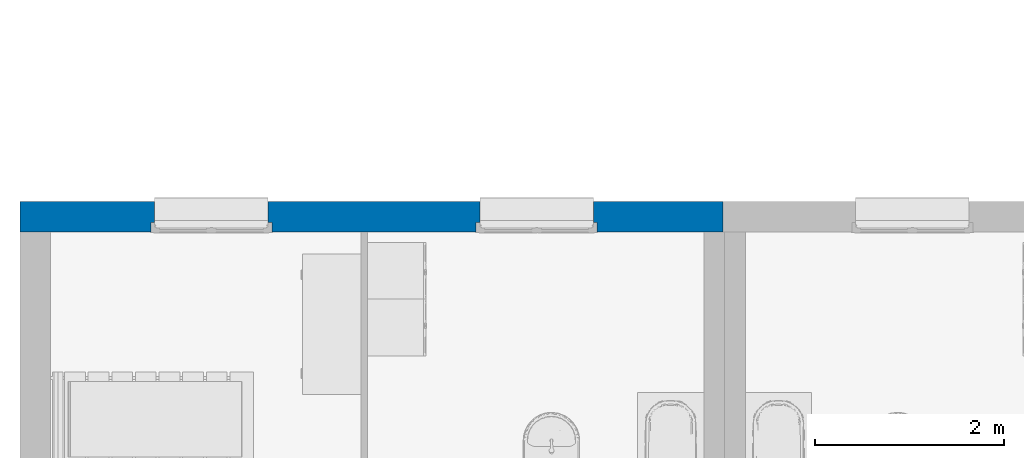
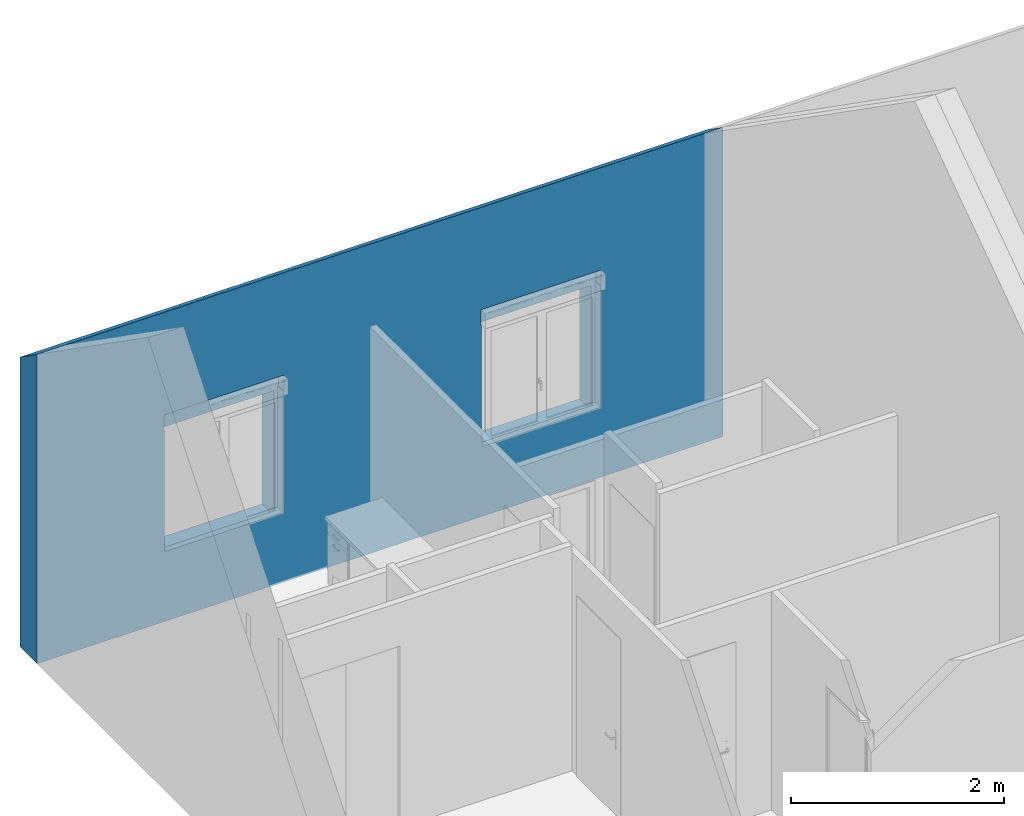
# One storey, part 19 of 50: 1 wall, 2 openings.
"""IFC2X3 building model written with IfcOpenShell, lengths in metres."""

from ifc_helpers import new_model, entity, si_unit, converted_unit, derived_unit, direction, frame, frame_2d, origin, place, context, subcontext, project, spatial, polyline, rectangle, extrude, clip, bounded_halfspace, faceted_brep, material, layer, layer_set, layer_usage, type_object, element, save


model = new_model("IFC2X3")

# Units and contexts
model_context = context("Model", 3, precision=1e-05, world=origin(), true_north=direction((6.12303176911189e-17, 1.0)))
context_of_model = context(None, 3, precision=1e-05, world=origin(), true_north=direction((6.12303176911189e-17, 1.0)))
body_context = subcontext(model_context, "Body", "Model", "MODEL_VIEW")
ifc_project = project(units=[si_unit("LENGTHUNIT", "METRE"), si_unit("AREAUNIT", "SQUARE_METRE"), si_unit("VOLUMEUNIT", "CUBIC_METRE"), converted_unit("PLANEANGLEUNIT", "DEGREE", entity("IfcRatioMeasure", 0.0174532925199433), si_unit("PLANEANGLEUNIT", "RADIAN"), dimensions=[0, 0, 0, 0, 0, 0, 0]), si_unit("MASSUNIT", "GRAM", prefix="KILO"), si_unit("TIMEUNIT", "SECOND"), si_unit("FREQUENCYUNIT", "HERTZ"), si_unit("THERMODYNAMICTEMPERATUREUNIT", "DEGREE_CELSIUS"), derived_unit("THERMALTRANSMITTANCEUNIT", [(si_unit("MASSUNIT", "GRAM", prefix="KILO"), 1), (si_unit("THERMODYNAMICTEMPERATUREUNIT", "KELVIN"), -1), (si_unit("TIMEUNIT", "SECOND"), -3)]), derived_unit("VOLUMETRICFLOWRATEUNIT", [(si_unit("LENGTHUNIT", "METRE"), 3), (si_unit("TIMEUNIT", "SECOND"), -1)]), si_unit("ELECTRICCURRENTUNIT", "AMPERE"), si_unit("ELECTRICVOLTAGEUNIT", "VOLT"), si_unit("POWERUNIT", "WATT"), si_unit("FORCEUNIT", "NEWTON", prefix="KILO"), si_unit("ILLUMINANCEUNIT", "LUX"), si_unit("LUMINOUSFLUXUNIT", "LUMEN"), si_unit("LUMINOUSINTENSITYUNIT", "CANDELA"), si_unit("PRESSUREUNIT", "PASCAL")], contexts=[model_context, context_of_model])

# Site, building, storey
site_placement = place(None, origin())
site = spatial("IfcSite", under=ifc_project, at=site_placement, Name="Surface", CompositionType="ELEMENT")
building_placement = place(site_placement, origin())
building = spatial("IfcBuilding", under=site, at=building_placement, CompositionType="ELEMENT")
storey_placement = place(building_placement, frame((0.0, 0.0, 2.82)))
storey = spatial("IfcBuildingStorey", under=building, at=storey_placement, Name="ETAGE", CompositionType="ELEMENT", Elevation=2.82)

# Wall, openings
ifc_material_1 = material(Name="Enduit blanc cassé2")
ifc_layer_1 = layer(ifc_material_1, 0.02)
ifc_material_2 = material(Name="Parpaing")
ifc_layer_2 = layer(ifc_material_2, 0.2)
ifc_material_3 = material(Name="Isolant")
ifc_layer_3 = layer(ifc_material_3, 0.1)
ifc_layer_set = layer_set([ifc_layer_1, ifc_layer_2, ifc_layer_3], Name="Mur de base:Ext. Parpaing 20 + Isolant 10 enduit blanc cassé")
ifc_layer_usage = layer_usage(ifc_layer_set, "AXIS2", "POSITIVE", -0.16)
wall_type = type_object("IfcWallType", Name="Mur de base:Ext. Parpaing 20 + Isolant 10 enduit blanc cassé", PredefinedType="STANDARD", material=ifc_layer_set)
wall_placement = place(storey_placement, frame((68.8167429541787, 88.2677566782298, 0.0), z_axis=(0.0, 0.0, 1.0), x_axis=(-1.0, 0.0, 0.0)))
wall = element("IfcWallStandardCase", 1, at=wall_placement, inside=storey, type_object=wall_type, material=ifc_layer_usage, Name="Mur de base:Ext. Parpaing 20 + Isolant 10 enduit blanc cassé", ObjectType="Mur de base:Ext. Parpaing 20 + Isolant 10 enduit blanc cassé", context=body_context, shape_type="Clipping", body=[
    clip(extrude(rectangle(XDim=7.43037953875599, YDim=0.319999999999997, at=frame_2d((3.715189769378, -9.85322934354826e-16), x_axis=(-1.0, 0.0))), origin(), (0.0, 0.0, 1.0), 3.5440664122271), bounded_halfspace(frame((0.0, -0.159999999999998, 3.32), z_axis=(0.0, -0.573576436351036, 0.819152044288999), x_axis=(1.0, 0.0, 0.0)), False, frame((0.0, -0.159999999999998, 3.32)), polyline([(0.0, 0.0), (7.43037953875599, 0.0), (7.43037953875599, 0.319999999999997), (7.110379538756, 0.319999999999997), (0.201733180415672, 0.319999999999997), (0.0, 0.319999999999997), (0.0, 0.0)]))),
])
opening_1_placement = place(wall_placement, frame((2.6181748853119, 0.500000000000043, 0.719999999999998), z_axis=(0.0, 0.0, 1.0), x_axis=(-1.0, 0.0, 0.0)))
element("IfcOpeningElement", 2, at=opening_1_placement, cuts=wall, Name="Mur de base:Ext. Parpaing 20 + Isolant 10 enduit blanc cassé", ObjectType="Opening", context=body_context, shape_type="Brep", body=[
    faceted_brep([(0.0500000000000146, 0.0, 1.43), (0.0500000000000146, 0.0, 0.0800000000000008), (1.25000000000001, 0.0, 0.0800000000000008), (1.25000000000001, 0.0, 1.43), (0.0499999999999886, 1.0, 1.43), (1.24999999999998, 1.0, 1.43), (1.24999999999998, 1.0, 0.0800000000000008), (0.0499999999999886, 1.0, 0.0800000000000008), (1.25000000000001, 0.327000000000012, 1.43), (0.050000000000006, 0.32700000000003, 1.43), (1.25000000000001, 0.327000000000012, 0.0800000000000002), (0.050000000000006, 0.32700000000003, 0.0800000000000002), (0.0100000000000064, 0.327000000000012, 0.0800000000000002), (0.0100000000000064, 0.440000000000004, 0.0800000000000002), (0.050000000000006, 0.440000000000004, 0.0800000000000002), (0.050000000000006, 0.405000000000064, 0.0800000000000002), (1.25, 0.405000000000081, 0.0800000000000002), (1.25, 0.440000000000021, 0.0800000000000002), (1.29, 0.440000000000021, 0.0800000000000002), (1.29, 0.327000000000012, 0.0800000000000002), (1.29, 0.32700000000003, 1.47), (0.0100000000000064, 0.327000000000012, 1.47), (1.29, 0.440000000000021, 1.47), (1.25, 0.440000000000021, 1.43), (0.0499999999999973, 0.440000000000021, 1.43), (0.0100000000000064, 0.440000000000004, 1.47), (0.0, 0.440000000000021, 1.47), (0.0, 0.440000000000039, 1.65), (1.3, 0.440000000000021, 1.65), (1.3, 0.440000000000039, 1.47), (1.3, 0.307000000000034, 1.65), (1.3, 0.307000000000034, 1.47), (0.0, 0.307000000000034, 1.65), (0.0, 0.307000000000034, 1.47), (1.25, 0.440000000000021, 0.0), (1.25, 0.405000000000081, 0.0349999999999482), (0.050000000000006, 0.405000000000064, 0.0349999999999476), (0.0499999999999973, 0.440000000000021, 0.0), (1.25, 0.705000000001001, 0.0800000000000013), (1.25, 0.705000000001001, 0.0), (0.050000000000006, 0.705000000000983, 0.0), (0.0499999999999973, 0.705000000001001, 0.0800000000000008)], [[[0, 1, 2, 3]], [[4, 5, 6, 7]], [[0, 3, 8, 9]], [[3, 2, 10, 8]], [[2, 1, 11, 12, 13, 14, 15, 16, 17, 18, 19, 10]], [[1, 0, 9, 11]], [[10, 19, 20, 21, 12, 11, 9, 8]], [[19, 18, 22, 20]], [[18, 17, 23, 24, 14, 13, 25, 26, 27, 28, 29, 22]], [[12, 21, 25, 13]], [[30, 31, 29, 28]], [[32, 27, 26, 33]], [[30, 28, 27, 32]], [[29, 31, 33, 26, 25, 21, 20, 22]], [[31, 30, 32, 33]], [[34, 35, 36, 37]], [[35, 16, 15, 36]], [[38, 39, 40, 41]], [[39, 34, 37, 40]], [[4, 7, 41, 40, 37, 36, 15, 14, 24]], [[7, 6, 38, 41]], [[6, 5, 23, 17, 16, 35, 34, 39, 38]], [[5, 4, 24, 23]]]),
])
opening_2_placement = place(wall_placement, frame((6.05730635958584, 0.500000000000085, 0.719999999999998), z_axis=(0.0, 0.0, 1.0), x_axis=(-1.0, 0.0, 0.0)))
element("IfcOpeningElement", 3, at=opening_2_placement, cuts=wall, Name="Mur de base:Ext. Parpaing 20 + Isolant 10 enduit blanc cassé", ObjectType="Opening", context=body_context, shape_type="Brep", body=[
    faceted_brep([(0.0500000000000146, 0.0, 1.43), (0.0500000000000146, 0.0, 0.0800000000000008), (1.25000000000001, 0.0, 0.0800000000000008), (1.25000000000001, 0.0, 1.43), (0.0499999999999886, 1.0, 1.43), (1.24999999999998, 1.0, 1.43), (1.24999999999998, 1.0, 0.0800000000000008), (0.0499999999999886, 1.0, 0.0800000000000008), (1.25000000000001, 0.327000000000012, 1.43), (0.050000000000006, 0.32700000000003, 1.43), (1.25000000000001, 0.327000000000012, 0.0800000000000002), (0.050000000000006, 0.32700000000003, 0.0800000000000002), (0.0100000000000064, 0.327000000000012, 0.0800000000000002), (0.0100000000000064, 0.440000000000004, 0.0800000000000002), (0.050000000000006, 0.440000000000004, 0.0800000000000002), (0.050000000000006, 0.405000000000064, 0.0800000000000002), (1.25, 0.405000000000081, 0.0800000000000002), (1.25, 0.440000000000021, 0.0800000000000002), (1.29, 0.440000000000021, 0.0800000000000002), (1.29, 0.327000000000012, 0.0800000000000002), (1.29, 0.32700000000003, 1.47), (0.0100000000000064, 0.327000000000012, 1.47), (1.29, 0.440000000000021, 1.47), (1.25, 0.440000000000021, 1.43), (0.0499999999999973, 0.440000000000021, 1.43), (0.0100000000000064, 0.440000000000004, 1.47), (0.0, 0.440000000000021, 1.47), (0.0, 0.440000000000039, 1.65), (1.3, 0.440000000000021, 1.65), (1.3, 0.440000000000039, 1.47), (1.3, 0.307000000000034, 1.65), (1.3, 0.307000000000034, 1.47), (0.0, 0.307000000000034, 1.65), (0.0, 0.307000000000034, 1.47), (1.25, 0.440000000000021, 0.0), (1.25, 0.405000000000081, 0.0349999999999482), (0.050000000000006, 0.405000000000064, 0.0349999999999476), (0.0499999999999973, 0.440000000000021, 0.0), (1.25, 0.705000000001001, 0.0800000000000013), (1.25, 0.705000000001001, 0.0), (0.050000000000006, 0.705000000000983, 0.0), (0.0499999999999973, 0.705000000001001, 0.0800000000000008)], [[[0, 1, 2, 3]], [[4, 5, 6, 7]], [[0, 3, 8, 9]], [[3, 2, 10, 8]], [[2, 1, 11, 12, 13, 14, 15, 16, 17, 18, 19, 10]], [[1, 0, 9, 11]], [[10, 19, 20, 21, 12, 11, 9, 8]], [[19, 18, 22, 20]], [[18, 17, 23, 24, 14, 13, 25, 26, 27, 28, 29, 22]], [[12, 21, 25, 13]], [[30, 31, 29, 28]], [[32, 27, 26, 33]], [[30, 28, 27, 32]], [[29, 31, 33, 26, 25, 21, 20, 22]], [[31, 30, 32, 33]], [[34, 35, 36, 37]], [[35, 16, 15, 36]], [[38, 39, 40, 41]], [[39, 34, 37, 40]], [[4, 7, 41, 40, 37, 36, 15, 14, 24]], [[7, 6, 38, 41]], [[6, 5, 23, 17, 16, 35, 34, 39, 38]], [[5, 4, 24, 23]]]),
])

save(model, "model.ifc")
